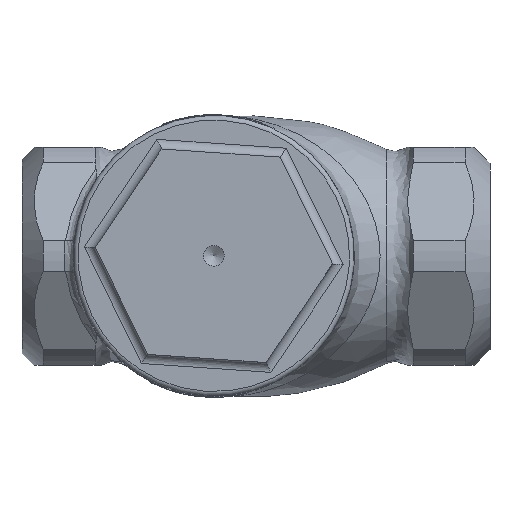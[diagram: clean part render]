
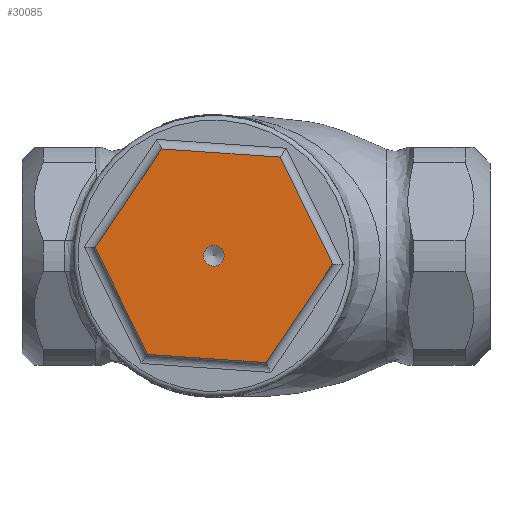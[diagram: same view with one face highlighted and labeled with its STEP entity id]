
A CAD part, top view. The second image highlights one B-rep face of the part: STEP entity #30085.
In plain terms, the highlighted planar face has unit normal (0, 0, 1).
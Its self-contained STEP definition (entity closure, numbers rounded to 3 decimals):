
#30019=CARTESIAN_POINT('',(-29.5,0.,33.3));
#30020=DIRECTION('',(0.0,0.0,1.0));
#30021=DIRECTION('',(0.898,0.439,0.0));
#30022=AXIS2_PLACEMENT_3D('',#30019,#30020,#30021);
#30023=PLANE('',#30022);
#30024=CARTESIAN_POINT('',(-22.409,10.538,33.3));
#30025=VERTEX_POINT('',#30024);
#30026=CARTESIAN_POINT('',(-16.828,-0.871,33.3));
#30027=VERTEX_POINT('',#30026);
#30028=CARTESIAN_POINT('',(-22.409,10.538,33.3));
#30029=DIRECTION('',(0.439,-0.898,0.0));
#30030=VECTOR('',#30029,12.702);
#30031=LINE('',#30028,#30030);
#30032=EDGE_CURVE('',#30025,#30027,#30031,.T.);
#30033=ORIENTED_EDGE('',*,*,#30032,.F.);
#30034=CARTESIAN_POINT('',(-35.081,11.41,33.3));
#30035=VERTEX_POINT('',#30034);
#30036=CARTESIAN_POINT('',(-35.081,11.41,33.3));
#30037=DIRECTION('',(0.998,-0.069,0.0));
#30038=VECTOR('',#30037,12.702);
#30039=LINE('',#30036,#30038);
#30040=EDGE_CURVE('',#30035,#30025,#30039,.T.);
#30041=ORIENTED_EDGE('',*,*,#30040,.F.);
#30042=CARTESIAN_POINT('',(-42.172,0.871,33.3));
#30043=VERTEX_POINT('',#30042);
#30044=CARTESIAN_POINT('',(-42.172,0.871,33.3));
#30045=DIRECTION('',(0.558,0.83,0.0));
#30046=VECTOR('',#30045,12.702);
#30047=LINE('',#30044,#30046);
#30048=EDGE_CURVE('',#30043,#30035,#30047,.T.);
#30049=ORIENTED_EDGE('',*,*,#30048,.F.);
#30050=CARTESIAN_POINT('',(-36.591,-10.538,33.3));
#30051=VERTEX_POINT('',#30050);
#30052=CARTESIAN_POINT('',(-36.591,-10.538,33.3));
#30053=DIRECTION('',(-0.439,0.898,0.0));
#30054=VECTOR('',#30053,12.702);
#30055=LINE('',#30052,#30054);
#30056=EDGE_CURVE('',#30051,#30043,#30055,.T.);
#30057=ORIENTED_EDGE('',*,*,#30056,.F.);
#30058=CARTESIAN_POINT('',(-23.919,-11.41,33.3));
#30059=VERTEX_POINT('',#30058);
#30060=CARTESIAN_POINT('',(-23.919,-11.41,33.3));
#30061=DIRECTION('',(-0.998,0.069,0.0));
#30062=VECTOR('',#30061,12.702);
#30063=LINE('',#30060,#30062);
#30064=EDGE_CURVE('',#30059,#30051,#30063,.T.);
#30065=ORIENTED_EDGE('',*,*,#30064,.F.);
#30066=CARTESIAN_POINT('',(-16.828,-0.871,33.3));
#30067=DIRECTION('',(-0.558,-0.83,0.0));
#30068=VECTOR('',#30067,12.702);
#30069=LINE('',#30066,#30068);
#30070=EDGE_CURVE('',#30027,#30059,#30069,.T.);
#30071=ORIENTED_EDGE('',*,*,#30070,.F.);
#30072=EDGE_LOOP('',(#30033,#30041,#30049,#30057,#30065,#30071));
#30073=FACE_OUTER_BOUND('',#30072,.T.);
#30074=CARTESIAN_POINT('',(-28.512,0.483,33.3));
#30075=VERTEX_POINT('',#30074);
#30076=CARTESIAN_POINT('',(-29.5,0.,33.3));
#30077=DIRECTION('',(0.0,0.0,-1.0));
#30078=DIRECTION('',(0.898,0.439,0.0));
#30079=AXIS2_PLACEMENT_3D('',#30076,#30077,#30078);
#30080=CIRCLE('',#30079,1.1);
#30081=EDGE_CURVE('',#30075,#30075,#30080,.T.);
#30082=ORIENTED_EDGE('',*,*,#30081,.T.);
#30083=EDGE_LOOP('',(#30082));
#30084=FACE_BOUND('',#30083,.T.);
#30085=ADVANCED_FACE('',(#30073,#30084),#30023,.T.);
